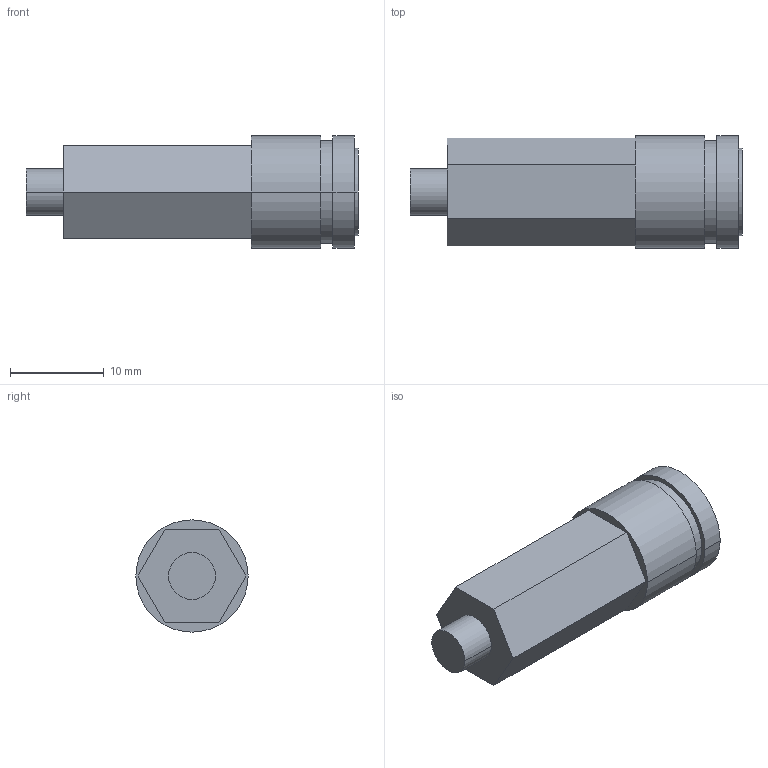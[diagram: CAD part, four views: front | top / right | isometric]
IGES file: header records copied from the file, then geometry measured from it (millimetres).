
Global section: file name: No Iges File Name specified; native system: Autodesk Inventor 2009; preprocessor: AutoDesk Inventor Iges Exporter R2009; author: y-shimohigashi; date: 20080701.144653; units: millimetre
Bounding box: 35.5 x 12 x 12 mm (x, y, z)
Volume: 2523.8 mm3; surface area: 1783.6 mm2
Topology: 1 solids, 1 shells, 26 faces, 54 edges, 36 vertices
Faces by surface type: plane 13, cylinder 10, bspline 3
